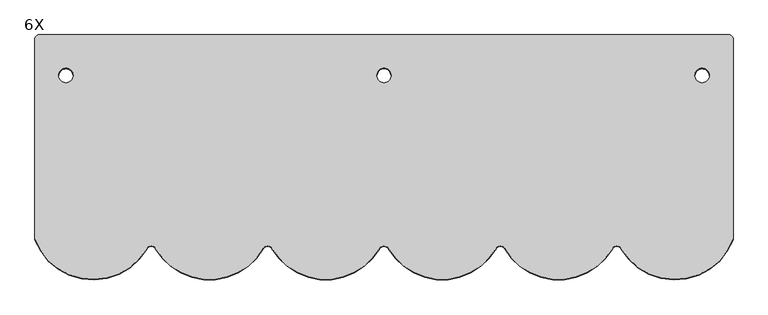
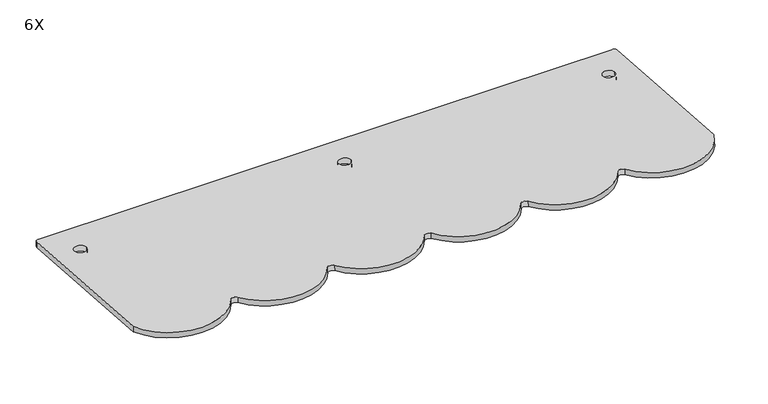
"""IFC4 building model written with IfcOpenShell, lengths in millimetres: proxy geometry, ML PhotonRoof Beaver Anthracite Premium : 6X."""

from ifc_helpers import new_model, si_unit, point, frame, frame_2d, origin, place, context, project, spatial, polyline, circle_curve, trimmed, segment, composite_curve, outline, extrude, source, transform, mapped, element, save


def proxy_6x_9bf9bb63(model_context):
    return source(origin(), model_context, "Body", "SweptSolid", [
        extrude(outline(composite_curve([segment(polyline([(180.0, 0.0), (720.0, 0.0)]), True, "CONTINUOUS"), segment(trimmed(circle_curve(frame_2d((720.0, -5.9999999)), 6.0), [point((720.0, 0.0))], [point((726.0, -5.9999999))], False, "CARTESIAN"), True, "CONTINUOUS"), segment(polyline([(726.0, -5.9999999), (726.0, -317.4065861)]), True, "CONTINUOUS"), segment(trimmed(circle_curve(frame_2d((636.0, -284.0)), 96.0), [point((726.0, -317.4065861))], [point((552.5197525, -331.4030407))], False, "CARTESIAN"), True, "CONTINUOUS"), segment(trimmed(circle_curve(frame_2d((546.0, -336.0390765)), 8.0), [point((552.5197525, -331.4030407))], [point((539.4802475, -331.4030407))], True, "CARTESIAN"), True, "CONTINUOUS"), segment(trimmed(circle_curve(frame_2d((456.0, -284.0)), 96.0), [point((539.4802475, -331.4030407))], [point((372.5197525, -331.4030407))], False, "CARTESIAN"), True, "CONTINUOUS"), segment(trimmed(circle_curve(frame_2d((366.0, -336.0390765)), 8.0), [point((372.5197525, -331.4030407))], [point((359.4802475, -331.4030407))], True, "CARTESIAN"), True, "CONTINUOUS"), segment(trimmed(circle_curve(frame_2d((276.0, -284.0)), 96.0), [point((359.4802475, -331.4030407))], [point((192.5197525, -331.4030407))], False, "CARTESIAN"), True, "CONTINUOUS"), segment(trimmed(circle_curve(frame_2d((186.0, -336.0390765)), 8.0), [point((192.5197525, -331.4030407))], [point((179.4802475, -331.4030407))], True, "CARTESIAN"), True, "CONTINUOUS"), segment(trimmed(circle_curve(frame_2d((96.0, -284.0)), 96.0), [point((179.4802475, -331.4030407))], [point((12.5197525, -331.4030407))], False, "CARTESIAN"), True, "CONTINUOUS"), segment(trimmed(circle_curve(frame_2d((6.0, -336.0390765)), 8.0), [point((12.5197525, -331.4030407))], [point((-0.5197525, -331.4030407))], True, "CARTESIAN"), True, "CONTINUOUS"), segment(trimmed(circle_curve(frame_2d((-84.0, -284.0)), 96.0), [point((-0.5197525, -331.4030407))], [point((-167.4802475, -331.4030407))], False, "CARTESIAN"), True, "CONTINUOUS"), segment(trimmed(circle_curve(frame_2d((-174.0, -336.0390765)), 8.0), [point((-167.4802475, -331.4030407))], [point((-180.5197525, -331.4030407))], True, "CARTESIAN"), True, "CONTINUOUS"), segment(trimmed(circle_curve(frame_2d((-264.0, -284.0)), 96.0), [point((-180.5197525, -331.4030407))], [point((-354.0, -317.4065861))], False, "CARTESIAN"), True, "CONTINUOUS"), segment(polyline([(-354.0, -317.4065861), (-354.0, -5.9999999)]), True, "CONTINUOUS"), segment(trimmed(circle_curve(frame_2d((-348.0, -5.9999999)), 6.0), [point((-354.0, -5.9999999))], [point((-348.0, 0.0))], False, "CARTESIAN"), True, "CONTINUOUS"), segment(polyline([(-348.0, 0.0), (180.0, 0.0)]), True, "CONTINUOUS")], self_intersect=False), holes=[composite_curve([segment(trimmed(circle_curve(frame_2d((678.0, -63.0)), 11.0), [point((689.0, -63.0))], [point((667.0, -63.0))], True, "CARTESIAN"), True, "CONTINUOUS"), segment(trimmed(circle_curve(frame_2d((678.0, -63.0)), 11.0), [point((667.0, -63.0))], [point((689.0, -63.0))], True, "CARTESIAN"), True, "CONTINUOUS")], self_intersect=False), composite_curve([segment(trimmed(circle_curve(frame_2d((186.0, -63.0)), 11.0), [point((175.0, -63.0))], [point((197.0, -63.0))], True, "CARTESIAN"), True, "CONTINUOUS"), segment(trimmed(circle_curve(frame_2d((186.0, -63.0)), 11.0), [point((197.0, -63.0))], [point((175.0, -63.0))], True, "CARTESIAN"), True, "CONTINUOUS")], self_intersect=False), composite_curve([segment(trimmed(circle_curve(frame_2d((-306.0, -63.0)), 11.0), [point((-317.0, -63.0))], [point((-295.0, -63.0))], True, "CARTESIAN"), True, "CONTINUOUS"), segment(trimmed(circle_curve(frame_2d((-306.0, -63.0)), 11.0), [point((-295.0, -63.0))], [point((-317.0, -63.0))], True, "CARTESIAN"), True, "CONTINUOUS")], self_intersect=False)]), frame((264.0, 62.6654192, -4.4472233), z_axis=(0.0, 0.0707897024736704, 0.997491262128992), x_axis=(1.0, 0.0, 0.0)), (0.0, 0.0, 1.0), 10.0),
        extrude(outline(polyline([(65.625, 0.0), (65.625, -23.75), (-13.759513, -23.75), (-13.759513, 0.0), (65.625, 0.0)])), frame((424.0672565, 45.7146537, -17.0859147), z_axis=(0.0, 0.0707897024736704, 0.997491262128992), x_axis=(1.0, 0.0, 0.0)), (0.0, 0.0, 1.0), 13.8069239),
    ])


if __name__ == "__main__":
    model = new_model("IFC4")
    model_context = context("Model", 3, world=origin())
    ifc_project = project(units=[si_unit("LENGTHUNIT", "METRE", prefix="MILLI")], contexts=[model_context])
    site = spatial("IfcSite", under=ifc_project)
    building = spatial("IfcBuilding", under=site)
    placement = place(None, origin())
    proxy_6x_shape = proxy_6x_9bf9bb63(model_context)
    element("IfcBuildingElementProxy", 1, Name="ML PhotonRoof Beaver Anthracite Premium : 6X", ObjectType="ML PhotonRoof Beaver Anthracite Premium : 6X", at=placement, inside=building, context=model_context, shape_type="MappedRepresentation", body=[
        mapped(proxy_6x_shape, transform((0.0, 0.0, 0.0), x_axis=(1.0, 0.0, 0.0), y_axis=(0.0, 1.0, 0.0), z_axis=(0.0, 0.0, 1.0))),
    ])
    save(model, "model.ifc")
